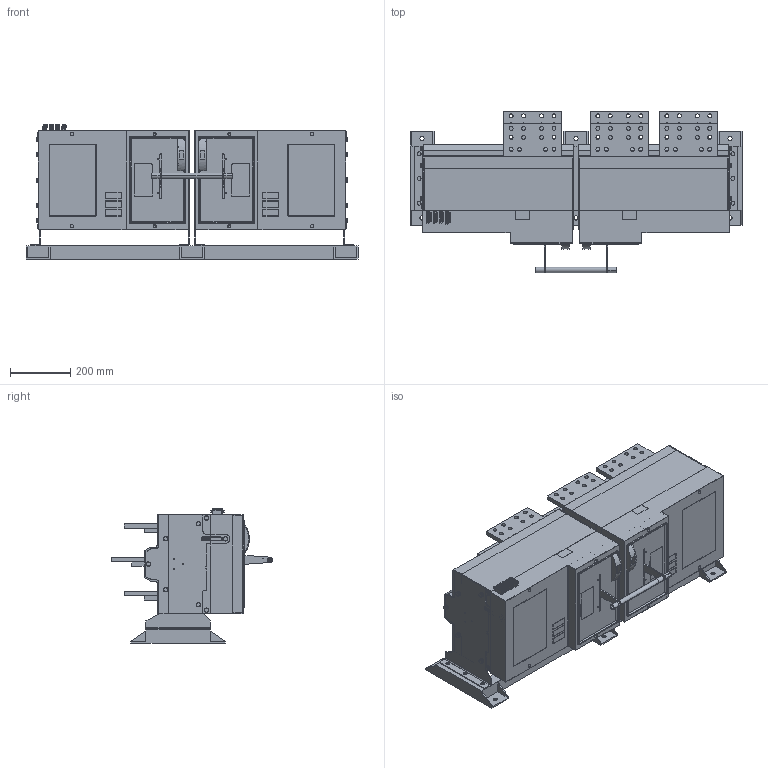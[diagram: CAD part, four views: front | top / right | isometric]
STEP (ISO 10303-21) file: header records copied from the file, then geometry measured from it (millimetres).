
FILE_DESCRIPTION (( 'STEP AP214' ), '1' );
FILE_NAME ('XKQE6000-4000A-3P.STEP', '2023-04-19T09:38:51', ( '' ), ( '' ), 'SwSTEP 2.0', 'SolidWorks 2020', '' );
FILE_SCHEMA (( 'AUTOMOTIVE_DESIGN' ));
Length unit declared in the file: millimetre
Products named in the file (15): 8XKQE-003-100___.STEP.STEP.STEP; XKQE6000-4000A-3P; 8XKQE-253-102.STEP; ____.STEP.STEP.STEP; 1_2_1.STEP.STEP.STEP; ____-0.STEP.STEP.STEP; 5XKQE-024-102_3_2.STEP.STEP.STEP; ________.STEP.STEP.STEP; M8-25________.STEP; ______ 2017.STEP.STEP.STEP; 8XKQE-253-101_1_1.STEP.STEP.STEP; 8XKQE-253-103.STEP; __________.STEP.STEP.STEP; 8XKQE-050-124_3_1.STEP.STEP.STEP; 媼棒傷赽
Assembly tree (45 placements, depth 2):
  XKQE6000-4000A-3P
    ________.STEP.STEP.STEP  x3
    ____.STEP.STEP.STEP  x9
    1_2_1.STEP.STEP.STEP  x2
    __________.STEP.STEP.STEP  x2
    ______ 2017.STEP.STEP.STEP
    8XKQE-003-100___.STEP.STEP.STEP
    8XKQE-253-102.STEP  x4
    8XKQE-253-101_1_1.STEP.STEP.STEP  x2
    5XKQE-024-102_3_2.STEP.STEP.STEP  x2
    8XKQE-050-124_3_1.STEP.STEP.STEP
    ____-0.STEP.STEP.STEP
    M8-25________.STEP  x14
    8XKQE-253-103.STEP  x2
    媼棒傷赽
Bounding box: 1106 x 537 x 447 mm (x, y, z)
Volume: 97249404.1 mm3; surface area: 5373292.3 mm2
Topology: 118 solids, 227 shells, 7185 faces, 18655 edges, 12202 vertices
Faces by surface type: plane 4334, cylinder 1978, cone 507, bspline 271, torus 77, sphere 18
Entity records: 260388 total; most frequent: CARTESIAN_POINT 56146, ORIENTED_EDGE 31996, DIRECTION 28638, EDGE_CURVE 16004, LINE 10764, VECTOR 10764, VERTEX_POINT 10480, AXIS2_PLACEMENT_3D 8937
